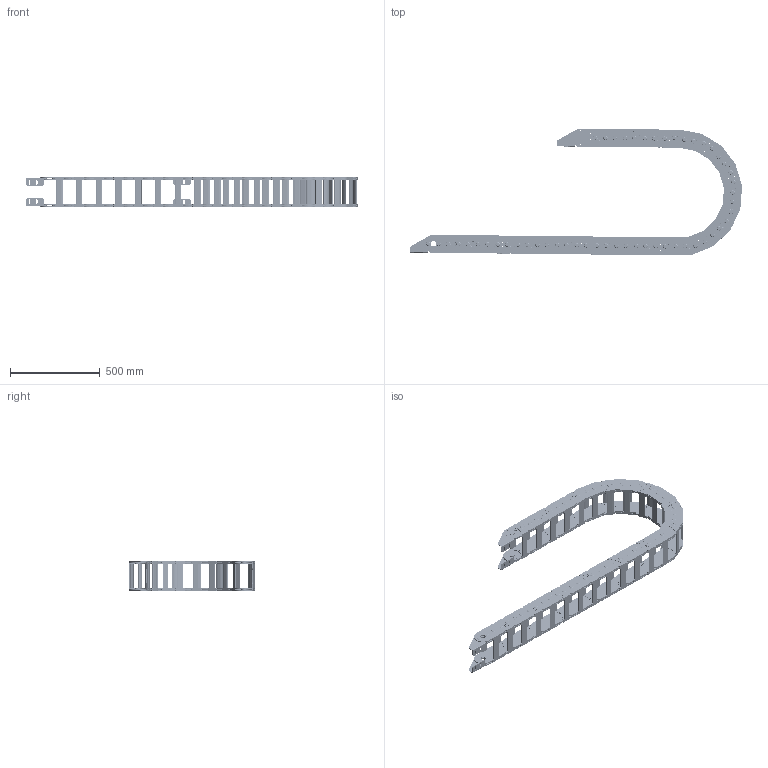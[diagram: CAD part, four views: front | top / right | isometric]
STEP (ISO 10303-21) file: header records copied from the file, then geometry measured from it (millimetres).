
FILE_DESCRIPTION((''),'2;1');
FILE_NAME('80GD-75-R300_ASM','2022-07-31T16:10:26',('admin'),(''),'CREO PARAMETRIC BY PTC INC, 2021164','CREO PARAMETRIC BY PTC INC, 2021164','');
FILE_SCHEMA(('CONFIG_CONTROL_DESIGN','GEOMETRIC_VALIDATION_PROPERTIES_MIM'));
Length unit declared in the file: millimetre
Products named in the file (5): 80-A; 80-B; 80-LTT; 80-LTT-2; 80GD-75-R300_ASM
Assembly tree (28 placements, depth 2):
  80GD-75-R300_ASM
    80-A  x13
    80-B  x13
    80-LTT
    80-LTT-2
Bounding box: 1848.36 x 704.94 x 170.4 mm (x, y, z)
Volume: 12638952.9 mm3; surface area: 3946856.4 mm2
Topology: 108 solids, 108 shells, 4580 faces, 12406 edges, 8410 vertices
Faces by surface type: cylinder 2024, plane 1828, torus 520, cone 208
Entity records: 21453 total; most frequent: DIRECTION 3094, CARTESIAN_POINT 2858, ORIENTED_EDGE 2732, EDGE_CURVE 1366, AXIS2_PLACEMENT_3D 1195, PRESENTATION_STYLE_ASSIGNMENT 1114, STYLED_ITEM 1114, VERTEX_POINT 922
